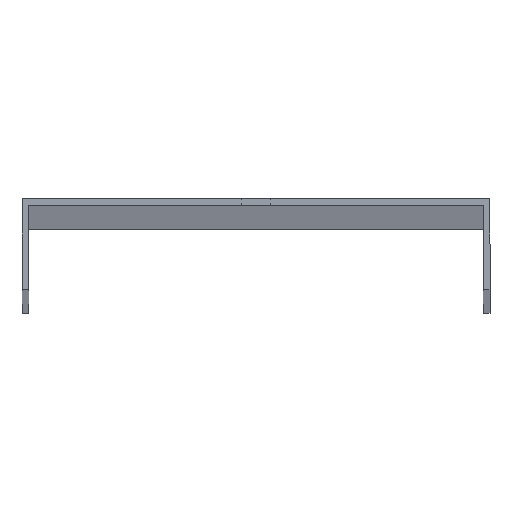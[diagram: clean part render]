
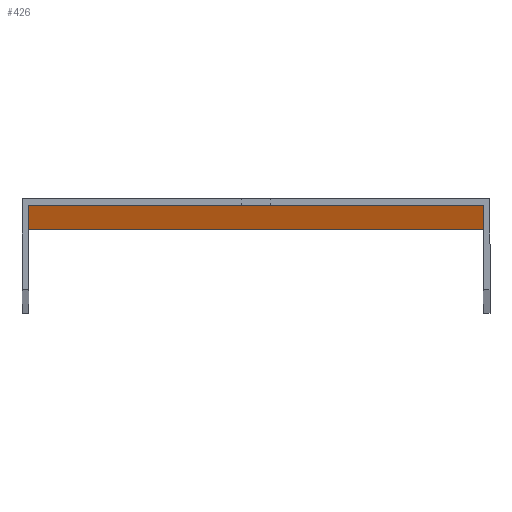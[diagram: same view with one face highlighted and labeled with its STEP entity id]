
A CAD part, top view. The second image highlights one B-rep face of the part: STEP entity #426.
In plain terms, the highlighted planar face has unit normal (0, -1, 0).
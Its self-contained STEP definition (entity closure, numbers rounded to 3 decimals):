
#1 = ORIENTED_EDGE ( 'NONE', *, *, #410, .T. ) ;
#2 = EDGE_CURVE ( 'NONE', #469, #384, #559, .T. ) ;
#15 = EDGE_CURVE ( 'NONE', #372, #232, #575, .T. ) ;
#21 = CARTESIAN_POINT ( 'NONE',  ( 3.25, -1.5, 1479. ) ) ;
#24 = CARTESIAN_POINT ( 'NONE',  ( -51.5, -1.5, 1500. ) ) ;
#49 = ORIENTED_EDGE ( 'NONE', *, *, #70, .T. ) ;
#53 = CARTESIAN_POINT ( 'NONE',  ( -3.25, -1.5, 1479. ) ) ;
#55 = VERTEX_POINT ( 'NONE', #577 ) ;
#56 = DIRECTION ( 'NONE',  ( -1., 0., 0. ) ) ;
#67 = LINE ( 'NONE', #160, #428 ) ;
#70 = EDGE_CURVE ( 'NONE', #384, #407, #265, .T. ) ;
#82 = CARTESIAN_POINT ( 'NONE',  ( 50., -1.5, 1500. ) ) ;
#86 = VERTEX_POINT ( 'NONE', #166 ) ;
#96 = EDGE_LOOP ( 'NONE', ( #242, #347, #188, #127 ) ) ;
#100 = CARTESIAN_POINT ( 'NONE',  ( -3.25, -1.5, 1500. ) ) ;
#112 = VECTOR ( 'NONE', #520, 1000. ) ;
#122 = CARTESIAN_POINT ( 'NONE',  ( -3.25, -1.5, 1488. ) ) ;
#127 = ORIENTED_EDGE ( 'NONE', *, *, #171, .F. ) ;
#131 = VERTEX_POINT ( 'NONE', #157 ) ;
#134 = VECTOR ( 'NONE', #356, 1000. ) ;
#135 = ORIENTED_EDGE ( 'NONE', *, *, #320, .F. ) ;
#150 = CARTESIAN_POINT ( 'NONE',  ( -51.5, -1.5, -1500. ) ) ;
#155 = ORIENTED_EDGE ( 'NONE', *, *, #2, .T. ) ;
#157 = CARTESIAN_POINT ( 'NONE',  ( 3.25, -1.5, 1488. ) ) ;
#159 = DIRECTION ( 'NONE',  ( 0., 0., -1. ) ) ;
#160 = CARTESIAN_POINT ( 'NONE',  ( -51.5, -1.5, 1479. ) ) ;
#161 = VECTOR ( 'NONE', #56, 1000. ) ;
#164 = CARTESIAN_POINT ( 'NONE',  ( -50., -1.5, -1500. ) ) ;
#165 = EDGE_CURVE ( 'NONE', #232, #55, #386, .T. ) ;
#166 = CARTESIAN_POINT ( 'NONE',  ( 50., -1.5, -1500. ) ) ;
#171 = EDGE_CURVE ( 'NONE', #553, #378, #67, .T. ) ;
#176 = LINE ( 'NONE', #526, #533 ) ;
#183 = LINE ( 'NONE', #591, #227 ) ;
#185 = DIRECTION ( 'NONE',  ( 0., 0., -1. ) ) ;
#188 = ORIENTED_EDGE ( 'NONE', *, *, #412, .F. ) ;
#190 = VECTOR ( 'NONE', #443, 1000. ) ;
#204 = DIRECTION ( 'NONE',  ( 0., -1., 0. ) ) ;
#206 = VECTOR ( 'NONE', #424, 1000. ) ;
#207 = CARTESIAN_POINT ( 'NONE',  ( -3.25, -1.5, -1488. ) ) ;
#217 = ORIENTED_EDGE ( 'NONE', *, *, #165, .T. ) ;
#227 = VECTOR ( 'NONE', #185, 1000. ) ;
#232 = VERTEX_POINT ( 'NONE', #420 ) ;
#234 = VECTOR ( 'NONE', #291, 1000. ) ;
#242 = ORIENTED_EDGE ( 'NONE', *, *, #277, .F. ) ;
#247 = CARTESIAN_POINT ( 'NONE',  ( -51.5, -1.5, 1488. ) ) ;
#250 = DIRECTION ( 'NONE',  ( 1., 0., 0. ) ) ;
#252 = CARTESIAN_POINT ( 'NONE',  ( -51.5, -1.5, -1479. ) ) ;
#256 = VECTOR ( 'NONE', #397, 1000. ) ;
#258 = CARTESIAN_POINT ( 'NONE',  ( -3.25, -1.5, 1500. ) ) ;
#259 = VERTEX_POINT ( 'NONE', #329 ) ;
#265 = LINE ( 'NONE', #352, #190 ) ;
#275 = DIRECTION ( 'NONE',  ( 0., 0., -1. ) ) ;
#277 = EDGE_CURVE ( 'NONE', #441, #553, #557, .T. ) ;
#291 = DIRECTION ( 'NONE',  ( -1., 0., 0. ) ) ;
#294 = PLANE ( 'NONE',  #590 ) ;
#295 = CARTESIAN_POINT ( 'NONE',  ( -51.5, -1.5, 1500. ) ) ;
#296 = CARTESIAN_POINT ( 'NONE',  ( -50., -1.5, 1500. ) ) ;
#310 = LINE ( 'NONE', #503, #358 ) ;
#320 = EDGE_CURVE ( 'NONE', #86, #407, #463, .T. ) ;
#321 = EDGE_CURVE ( 'NONE', #131, #441, #333, .T. ) ;
#329 = CARTESIAN_POINT ( 'NONE',  ( 3.25, -1.5, -1488. ) ) ;
#333 = LINE ( 'NONE', #247, #234 ) ;
#343 = LINE ( 'NONE', #362, #134 ) ;
#347 = ORIENTED_EDGE ( 'NONE', *, *, #321, .F. ) ;
#352 = CARTESIAN_POINT ( 'NONE',  ( -50., -1.5, 1500. ) ) ;
#353 = DIRECTION ( 'NONE',  ( -1., 0., 0. ) ) ;
#355 = ORIENTED_EDGE ( 'NONE', *, *, #544, .T. ) ;
#356 = DIRECTION ( 'NONE',  ( 0., 0., 1. ) ) ;
#358 = VECTOR ( 'NONE', #275, 1000. ) ;
#362 = CARTESIAN_POINT ( 'NONE',  ( 3.25, -1.5, 1500. ) ) ;
#372 = VERTEX_POINT ( 'NONE', #207 ) ;
#378 = VERTEX_POINT ( 'NONE', #21 ) ;
#384 = VERTEX_POINT ( 'NONE', #296 ) ;
#386 = LINE ( 'NONE', #252, #551 ) ;
#396 = DIRECTION ( 'NONE',  ( 1., 0., 0. ) ) ;
#397 = DIRECTION ( 'NONE',  ( 0., 0., 1. ) ) ;
#407 = VERTEX_POINT ( 'NONE', #164 ) ;
#410 = EDGE_CURVE ( 'NONE', #259, #372, #176, .T. ) ;
#412 = EDGE_CURVE ( 'NONE', #378, #131, #343, .T. ) ;
#420 = CARTESIAN_POINT ( 'NONE',  ( -3.25, -1.5, -1479. ) ) ;
#424 = DIRECTION ( 'NONE',  ( 0., 0., -1. ) ) ;
#425 = EDGE_LOOP ( 'NONE', ( #1, #448, #217, #355 ) ) ;
#426 = ADVANCED_FACE ( 'NONE', ( #479, #439, #487 ), #294, .T. ) ;
#428 = VECTOR ( 'NONE', #250, 1000. ) ;
#439 = FACE_OUTER_BOUND ( 'NONE', #489, .T. ) ;
#441 = VERTEX_POINT ( 'NONE', #122 ) ;
#443 = DIRECTION ( 'NONE',  ( 0., 0., -1. ) ) ;
#448 = ORIENTED_EDGE ( 'NONE', *, *, #15, .T. ) ;
#463 = LINE ( 'NONE', #150, #161 ) ;
#469 = VERTEX_POINT ( 'NONE', #82 ) ;
#479 = FACE_BOUND ( 'NONE', #96, .T. ) ;
#480 = ORIENTED_EDGE ( 'NONE', *, *, #574, .F. ) ;
#487 = FACE_BOUND ( 'NONE', #425, .T. ) ;
#489 = EDGE_LOOP ( 'NONE', ( #135, #480, #155, #49 ) ) ;
#503 = CARTESIAN_POINT ( 'NONE',  ( 50., -1.5, 1500. ) ) ;
#520 = DIRECTION ( 'NONE',  ( -1., 0., 0. ) ) ;
#526 = CARTESIAN_POINT ( 'NONE',  ( -51.5, -1.5, -1488. ) ) ;
#533 = VECTOR ( 'NONE', #353, 1000. ) ;
#544 = EDGE_CURVE ( 'NONE', #55, #259, #183, .T. ) ;
#551 = VECTOR ( 'NONE', #396, 1000. ) ;
#553 = VERTEX_POINT ( 'NONE', #53 ) ;
#557 = LINE ( 'NONE', #100, #206 ) ;
#559 = LINE ( 'NONE', #295, #112 ) ;
#574 = EDGE_CURVE ( 'NONE', #469, #86, #310, .T. ) ;
#575 = LINE ( 'NONE', #258, #256 ) ;
#577 = CARTESIAN_POINT ( 'NONE',  ( 3.25, -1.5, -1479. ) ) ;
#590 = AXIS2_PLACEMENT_3D ( 'NONE', #24, #204, #159 ) ;
#591 = CARTESIAN_POINT ( 'NONE',  ( 3.25, -1.5, 1500. ) ) ;
